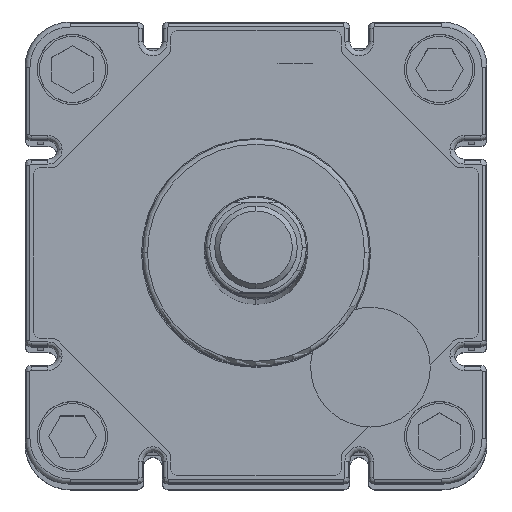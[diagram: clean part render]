
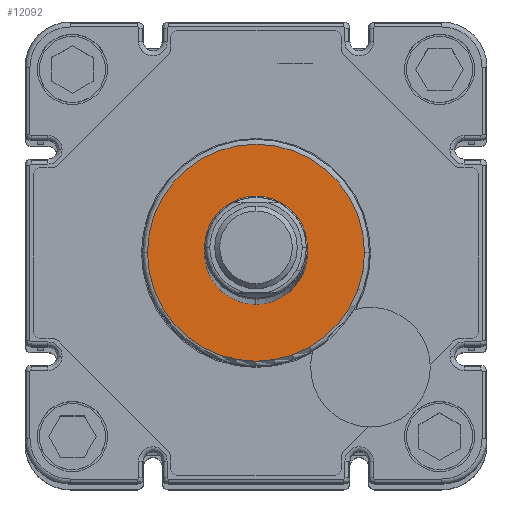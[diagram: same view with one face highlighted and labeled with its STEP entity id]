
A CAD part, top view. The second image highlights one B-rep face of the part: STEP entity #12092.
In plain terms, the highlighted planar face has unit normal (0, 0, 1).
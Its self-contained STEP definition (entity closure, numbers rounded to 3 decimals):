
#4999=CARTESIAN_POINT('',(-9.5,22.,837.5));
#5000=VERTEX_POINT('',#4999);
#5016=CARTESIAN_POINT('',(-9.5,-3.,837.5));
#5017=VERTEX_POINT('',#5016);
#5024=CARTESIAN_POINT('',(-9.5,9.5,837.5));
#5025=DIRECTION('',(0.0,0.0,-1.0));
#5026=DIRECTION('',(0.0,1.0,0.0));
#5027=AXIS2_PLACEMENT_3D('',#5024,#5025,#5026);
#5028=CIRCLE('',#5027,12.5);
#5029=EDGE_CURVE('',#5000,#5017,#5028,.T.);
#7096=CARTESIAN_POINT('',(-35.8,9.5,837.5));
#7097=VERTEX_POINT('',#7096);
#7107=CARTESIAN_POINT('',(16.8,9.5,837.5));
#7108=VERTEX_POINT('',#7107);
#7109=CARTESIAN_POINT('',(-9.5,9.5,837.5));
#7110=DIRECTION('',(0.0,0.0,-1.0));
#7111=DIRECTION('',(-1.0,0.0,0.0));
#7112=AXIS2_PLACEMENT_3D('',#7109,#7110,#7111);
#7113=CIRCLE('',#7112,26.3);
#7114=EDGE_CURVE('',#7097,#7108,#7113,.T.);
#7433=CARTESIAN_POINT('',(-9.5,9.5,837.5));
#7434=DIRECTION('',(0.0,0.0,-1.0));
#7435=DIRECTION('',(-1.0,0.0,0.0));
#7436=AXIS2_PLACEMENT_3D('',#7433,#7434,#7435);
#7437=CIRCLE('',#7436,26.3);
#7438=EDGE_CURVE('',#7108,#7097,#7437,.T.);
#11212=CARTESIAN_POINT('',(-9.5,9.5,837.5));
#11213=DIRECTION('',(0.0,0.0,-1.0));
#11214=DIRECTION('',(0.0,1.0,0.0));
#11215=AXIS2_PLACEMENT_3D('',#11212,#11213,#11214);
#11216=CIRCLE('',#11215,12.5);
#11217=EDGE_CURVE('',#5017,#5000,#11216,.T.);
#12079=CARTESIAN_POINT('',(21.25,-21.25,837.5));
#12080=DIRECTION('',(0.0,0.0,1.0));
#12081=DIRECTION('',(1.0,0.0,0.0));
#12082=AXIS2_PLACEMENT_3D('',#12079,#12080,#12081);
#12083=PLANE('',#12082);
#12084=ORIENTED_EDGE('',*,*,#7438,.F.);
#12085=ORIENTED_EDGE('',*,*,#7114,.F.);
#12086=EDGE_LOOP('',(#12084,#12085));
#12087=FACE_OUTER_BOUND('',#12086,.T.);
#12088=ORIENTED_EDGE('',*,*,#5029,.T.);
#12089=ORIENTED_EDGE('',*,*,#11217,.T.);
#12090=EDGE_LOOP('',(#12088,#12089));
#12091=FACE_BOUND('',#12090,.T.);
#12092=ADVANCED_FACE('',(#12087,#12091),#12083,.T.);
